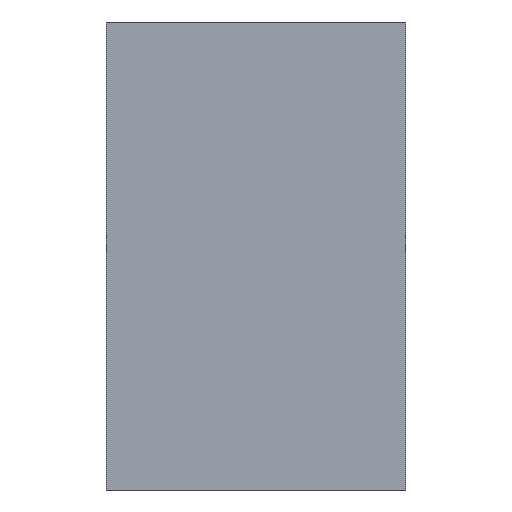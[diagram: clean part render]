
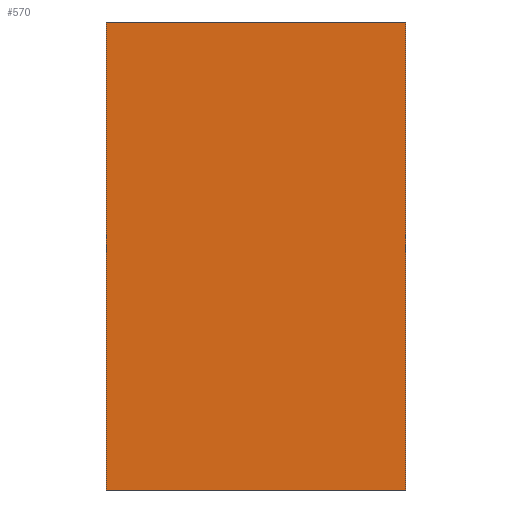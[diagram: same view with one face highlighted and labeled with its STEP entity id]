
A CAD part, left-side view. The second image highlights one B-rep face of the part: STEP entity #570.
In plain terms, the highlighted planar face has unit normal (-1, 0, 0).
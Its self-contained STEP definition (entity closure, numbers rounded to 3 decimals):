
#30=FACE_OUTER_BOUND('',#62,.T.);
#62=EDGE_LOOP('',(#401,#402,#403,#404));
#93=LINE('',#794,#165);
#106=LINE('',#820,#178);
#114=LINE('',#835,#186);
#115=LINE('',#837,#187);
#165=VECTOR('',#654,0.32);
#178=VECTOR('',#673,0.5);
#186=VECTOR('',#687,0.5);
#187=VECTOR('',#690,0.32);
#233=VERTEX_POINT('',#792);
#234=VERTEX_POINT('',#793);
#244=VERTEX_POINT('',#819);
#248=VERTEX_POINT('',#833);
#285=EDGE_CURVE('',#233,#234,#93,.T.);
#298=EDGE_CURVE('',#244,#234,#106,.T.);
#306=EDGE_CURVE('',#248,#233,#114,.T.);
#307=EDGE_CURVE('',#244,#248,#115,.T.);
#401=ORIENTED_EDGE('',*,*,#306,.F.);
#402=ORIENTED_EDGE('',*,*,#307,.F.);
#403=ORIENTED_EDGE('',*,*,#298,.T.);
#404=ORIENTED_EDGE('',*,*,#285,.F.);
#502=PLANE('',#607);
#570=ADVANCED_FACE('',(#30),#502,.T.);
#607=AXIS2_PLACEMENT_3D('',#836,#688,#689);
#654=DIRECTION('',(0.,-1.,0.));
#673=DIRECTION('',(0.,0.,1.));
#687=DIRECTION('',(0.,0.,1.));
#688=DIRECTION('center_axis',(-1.,0.,0.));
#689=DIRECTION('ref_axis',(0.,1.,0.));
#690=DIRECTION('',(0.,1.,0.));
#792=CARTESIAN_POINT('',(-0.014,0.306,0.486));
#793=CARTESIAN_POINT('',(-0.014,-0.014,0.486));
#794=CARTESIAN_POINT('',(-0.014,0.292,0.486));
#819=CARTESIAN_POINT('',(-0.014,-0.014,-0.014));
#820=CARTESIAN_POINT('',(-0.014,-0.014,0.472));
#833=CARTESIAN_POINT('',(-0.014,0.306,-0.014));
#835=CARTESIAN_POINT('',(-0.014,0.306,0.472));
#836=CARTESIAN_POINT('Origin',(-0.014,0.292,0.472));
#837=CARTESIAN_POINT('',(-0.014,0.,-0.014));
